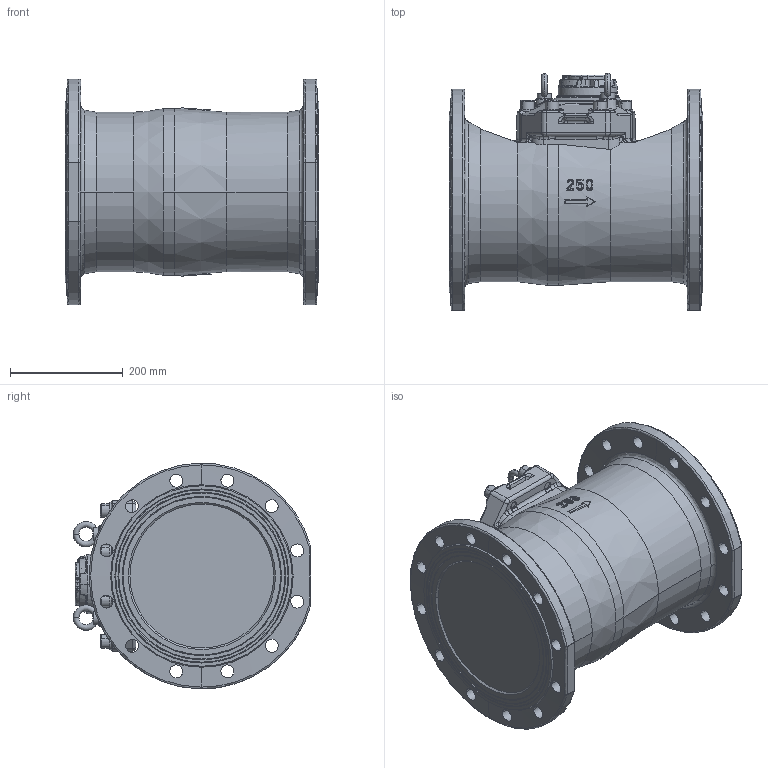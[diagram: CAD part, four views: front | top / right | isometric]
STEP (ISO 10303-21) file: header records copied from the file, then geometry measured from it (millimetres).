
FILE_DESCRIPTION (( 'STEP AP214' ), '1' );
FILE_NAME ('MWN250 IP65 NKO.STEP', '2025-07-09T13:45:04', ( '' ), ( '' ), 'SwSTEP 2.0', 'SolidWorks 2019', '' );
FILE_SCHEMA (( 'AUTOMOTIVE_DESIGN' ));
Length unit declared in the file: millimetre
Products named in the file (1): MWN250 IP65 NKO
Bounding box: 450 x 421 x 399.91 mm (x, y, z)
Volume: 33061750.8 mm3; surface area: 1215915.3 mm2
Topology: 19 solids, 48 shells, 1721 faces, 4308 edges, 2680 vertices
Faces by surface type: plane 559, cylinder 476, bspline 295, cone 252, torus 103, sphere 36
Entity records: 103849 total; most frequent: CARTESIAN_POINT 46868, ORIENTED_EDGE 8466, DIRECTION 7200, EDGE_CURVE 4233, AXIS2_PLACEMENT_3D 2752, VERTEX_POINT 2673, EDGE_LOOP 1896, ADVANCED_FACE 1721
